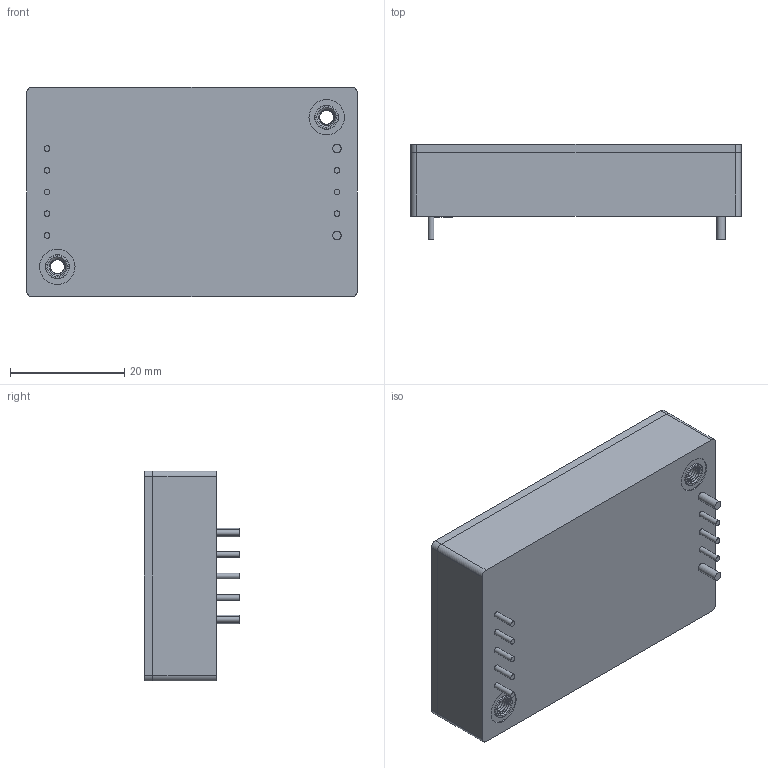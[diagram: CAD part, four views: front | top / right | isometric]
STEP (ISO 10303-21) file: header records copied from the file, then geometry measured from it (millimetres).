
FILE_DESCRIPTION(/* description */ (''),/* implementation_level */ '2;1');
FILE_NAME(/* name */ '\\192.168.1.249\ctc\上下蓋圖面查詢表\Data Sheet圖面\客戶別\(M)2TE-496_\X2\660E7DEF\X0\\DCWR\塑膠外殼\MRQ150WR12(TAC-011-01)\PACKAGE\MRQ150WR12.stp',/* time_stamp */ '2024-04-24T13:04:07+08:00',/* author */ ('ching'),/* organization */ (''),/* preprocessor_version */ 'ST-DEVELOPER v16.5',/* originating_system */ 'Autodesk Inventor 2017',/* authorisation */ '');
FILE_SCHEMA (('AUTOMOTIVE_DESIGN { 1 0 10303 214 3 1 1 }'));
Length unit declared in the file: millimetre
Products named in the file (1): N2105
Bounding box: 57.9 x 16.7 x 36.8 mm (x, y, z)
Volume: 26710.1 mm3; surface area: 12344.1 mm2
Topology: 16 solids, 16 shells, 84 faces, 156 edges, 100 vertices
Faces by surface type: plane 38, cylinder 32, cone 8, bspline 4, torus 2
Full cylindrical faces by diameter (mm): 1 x8, 1.5 x2, 2.459 x2, 4.2 x6, 6.2 x2
Entity records: 6001 total; most frequent: CARTESIAN_POINT 4407, DIRECTION 334, ORIENTED_EDGE 236, AXIS2_PLACEMENT_3D 151, EDGE_LOOP 128, EDGE_CURVE 116, VERTEX_POINT 90, FACE_OUTER_BOUND 84
